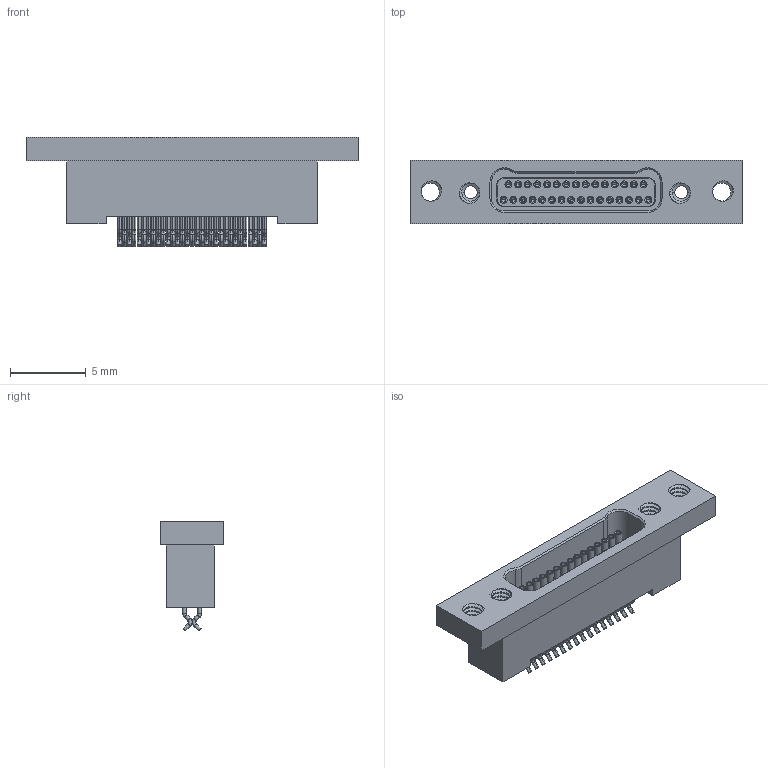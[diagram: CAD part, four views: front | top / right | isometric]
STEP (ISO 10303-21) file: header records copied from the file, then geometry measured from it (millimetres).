
FILE_DESCRIPTION (( 'STEP AP214' ), '1' );
FILE_NAME ('A29800-031 REV G.STEP', '2021-02-26T17:38:25', ( '' ), ( '' ), 'SwSTEP 2.0', 'SolidWorks 2019', '' );
FILE_SCHEMA (( 'AUTOMOTIVE_DESIGN' ));
Length unit declared in the file: inch
Products named in the file (1): A29800-031 REV G
Bounding box: 21.84 x 4.2 x 7.23 mm (x, y, z)
Volume: 252.2 mm3; surface area: 858.2 mm2
Topology: 1 solids, 4 shells, 875 faces, 2035 edges, 1215 vertices
Faces by surface type: cylinder 388, plane 223, torus 124, cone 80, bspline 60
Entity records: 42496 total; most frequent: CARTESIAN_POINT 11640, DIRECTION 4173, ORIENTED_EDGE 3946, EDGE_CURVE 1973, AXIS2_PLACEMENT_3D 1636, VERTEX_POINT 1215, EDGE_LOOP 992, LINE 901
